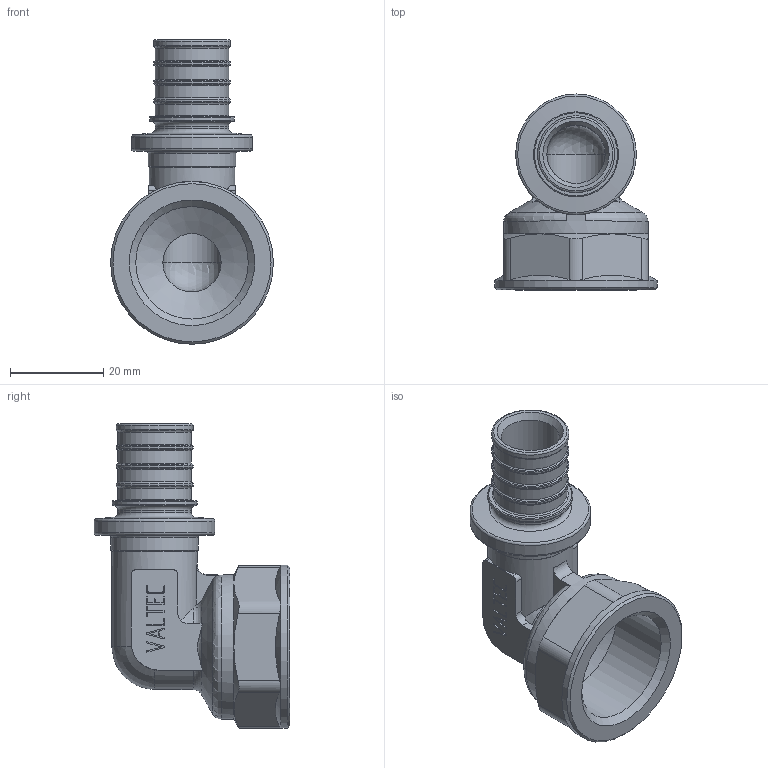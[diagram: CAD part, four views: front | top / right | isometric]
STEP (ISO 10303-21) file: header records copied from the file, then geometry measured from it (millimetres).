
FILE_DESCRIPTION(('STEP AP203'), '1');
FILE_NAME('ÂÐ.752213.009 - VTm.452.G.002005 - Ôèò. àêñ. óãîë', '', ('UNSPECIFIED'), ('UNSPECIFIED'), 'C3D Converter', 'C3D Toolkit', '');
FILE_SCHEMA(('CONFIG_CONTROL_DESIGN'));
Length unit declared in the file: millimetre
Products named in the file (1): ВР.752213.009
Bounding box: 34.9 x 41.95 x 65.25 mm (x, y, z)
Volume: 14967.2 mm3; surface area: 10599 mm2
Topology: 1 solids, 1 shells, 350 faces, 946 edges, 613 vertices
Faces by surface type: extrusion 142, plane 121, cylinder 39, torus 30, cone 14, sphere 2, bspline 2
Full cylindrical faces by diameter (mm): 12.5 x2, 15.7 x5, 16.5 x4, 18.2 x1, 18.3 x1, 18.7 x1, 24.118 x1, 25.9 x1, 31 x1, 34.9 x1
Entity records: 15579 total; most frequent: CARTESIAN_POINT 4792, ORIENTED_EDGE 1792, DIRECTION 1190, EDGE_CURVE 896, VERTEX_POINT 613, VECTOR 580, B_SPLINE_CURVE_WITH_KNOTS 497, LINE 438
